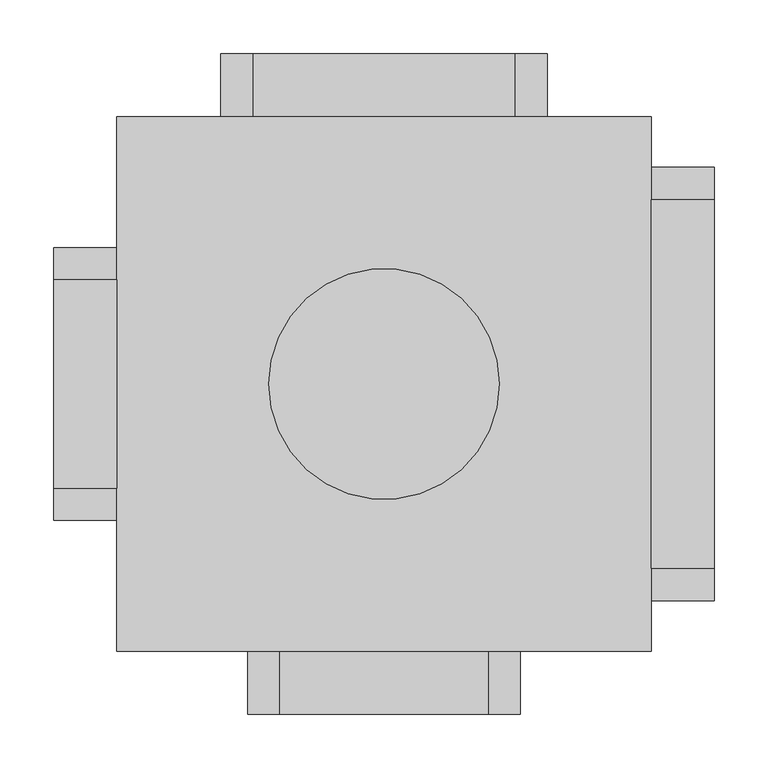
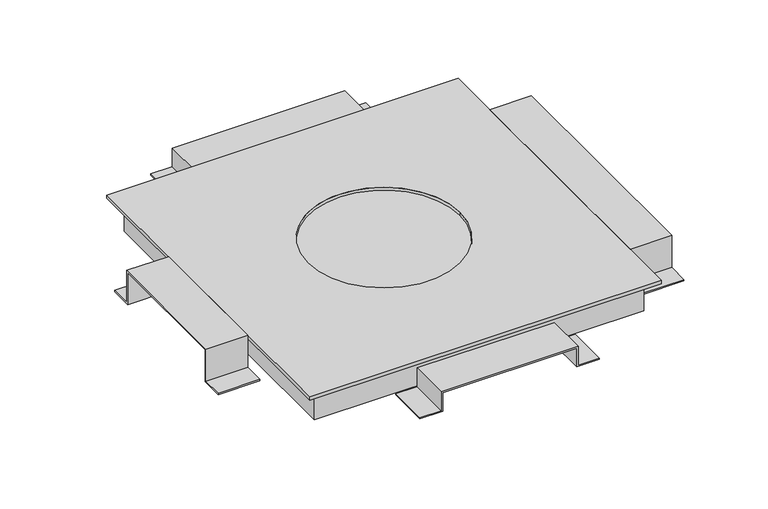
"""IFC4 building model written with IfcOpenShell, lengths in millimetres: cable carrier fitting geometry, Electrical-Installations_Hager_Universal-Junction-Box-With-Retaining-Tabs-Size-3 : Universal junction box with retaining tabs size 3."""

from ifc_helpers import new_model, si_unit, frame, origin, place, context, project, spatial, polyline, circle_curve, outline, extrude, faceted_brep, source, transform, mapped, element, save
from ifc_brep_helpers import plane_surface, revolved_surface, advanced_brep


def cable_carrier_fitting_b13fa1fb(model_context):
    return source(origin(), model_context, "Body", "SolidModel", [
        extrude(outline(polyline([(-14.0, -152.0), (-14.0, -120.0), (14.0, -120.0), (14.0, 120.0), (-14.0, 120.0), (-14.0, 152.0), (-12.0, 152.0), (-12.0, 122.0), (16.0, 122.0), (16.0, -122.0), (-12.0, -122.0), (-12.0, -152.0), (-14.0, -152.0)])), frame((0.0, 249.0, 0.0), z_axis=(0.0, 1.0, 0.0), x_axis=(0.0, 0.0, 1.0)), (0.0, 0.0, 1.0), 59.0),
        extrude(outline(polyline([(-127.0, -24.0), (-127.0, -22.0), (-97.0, -22.0), (-97.0, 26.0), (97.0, 26.0), (97.0, -22.0), (127.0, -22.0), (127.0, -24.0), (95.0, -24.0), (95.0, 24.0), (-95.0, 24.0), (-95.0, -24.0), (-127.0, -24.0)])), frame((-308.0, 0.0, 0.0), z_axis=(1.0, 0.0, 0.0), x_axis=(0.0, 1.0, 0.0)), (0.0, 0.0, 1.0), 59.0),
        extrude(outline(polyline([(-14.0, -127.0), (-14.0, -95.0), (14.0, -95.0), (14.0, 95.0), (-14.0, 95.0), (-14.0, 127.0), (-12.0, 127.0), (-12.0, 97.0), (16.0, 97.0), (16.0, -97.0), (-12.0, -97.0), (-12.0, -127.0), (-14.0, -127.0)])), frame((0.0, -308.0, 0.0), z_axis=(0.0, 1.0, 0.0), x_axis=(0.0, 0.0, 1.0)), (0.0, 0.0, 1.0), 59.0),
        extrude(outline(polyline([(-202.0, -24.0), (-202.0, -22.0), (-172.0, -22.0), (-172.0, 26.0), (172.0, 26.0), (172.0, -22.0), (202.0, -22.0), (202.0, -24.0), (170.0, -24.0), (170.0, 24.0), (-170.0, 24.0), (-170.0, -24.0), (-202.0, -24.0)])), frame((249.0, 0.0, 0.0), z_axis=(1.0, 0.0, 0.0), x_axis=(0.0, 1.0, 0.0)), (0.0, 0.0, 1.0), 59.0),
        advanced_brep(
        [(-249.0, -249.0, 26.0), (249.0, -249.0, 26.0), (249.0, 249.0, 26.0), (-249.0, 249.0, 26.0), (-107.5, 0.0, 26.0), (107.5, 0.0, 26.0), (-249.0, -249.0, 21.0), (-249.0, 249.0, 21.0), (249.0, 249.0, 21.0), (249.0, -249.0, 21.0), (227.0, 227.0, 21.0), (-227.0, 227.0, 21.0), (-227.0, -227.0, 21.0), (227.0, -227.0, 21.0), (-107.5, 0.0, 21.7820613), (107.5, 0.0, 21.7820613), (227.0, 227.0, 21.7820613), (227.0, -227.0, 21.7820613), (-227.0, -227.0, 21.7820613), (-227.0, 227.0, 21.7820613)],
        [
            (0, 1),
            (1, 2),
            (2, 3),
            (3, 0),
            (4, 5, circle_curve(frame((0.0, 0.0, 26.0), z_axis=(0.0, 0.0, -1.0), x_axis=(1.0, 0.0, 0.0)), 107.5)),
            (5, 4, circle_curve(frame((0.0, 0.0, 26.0), z_axis=(0.0, 0.0, -1.0), x_axis=(1.0, 0.0, 0.0)), 107.5)),
            (6, 7),
            (7, 8),
            (8, 9),
            (9, 6),
            (10, 11),
            (11, 12),
            (12, 13),
            (13, 10),
            (0, 6),
            (9, 1),
            (8, 2),
            (7, 3),
            (4, 14),
            (14, 15, circle_curve(frame((0.0, 0.0, 21.7820613), z_axis=(0.0, 0.0, -1.0), x_axis=(1.0, 0.0, 0.0)), 107.5)),
            (15, 5),
            (15, 14, circle_curve(frame((0.0, 0.0, 21.7820613), z_axis=(0.0, 0.0, -1.0), x_axis=(1.0, 0.0, 0.0)), 107.5)),
            (16, 17),
            (17, 18),
            (18, 19),
            (19, 16),
            (19, 11),
            (10, 16),
            (18, 12),
            (17, 13),
        ],
        [
            plane_surface(frame((-249.0, -249.0, 26.0), z_axis=(0.0, 0.0, 1.0), x_axis=(1.0, 0.0, 0.0))),
            plane_surface(frame((-249.0, -249.0, 21.0), z_axis=(0.0, 0.0, -1.0), x_axis=(-1.0, 0.0, 0.0))),
            plane_surface(frame((-249.0, -249.0, 26.0), z_axis=(0.0, -1.0, 0.0), x_axis=(0.0, 0.0, -1.0))),
            plane_surface(frame((249.0, -249.0, 26.0), z_axis=(1.0, 0.0, 0.0), x_axis=(0.0, 0.0, -1.0))),
            plane_surface(frame((249.0, 249.0, 26.0), z_axis=(0.0, 1.0, 0.0), x_axis=(0.0, 0.0, -1.0))),
            plane_surface(frame((-249.0, 249.0, 26.0), z_axis=(-1.0, 0.0, 0.0), x_axis=(0.0, 0.0, -1.0))),
            revolved_surface(polyline([(107.5, 0.0, 21.7820613), (107.5, 0.0, 26.0)]), (0.0, 0.0, 0.0), (0.0, 0.0, -1.0)),
            plane_surface(frame((-227.0, 227.0, 21.7820613), z_axis=(0.0, 0.0, -1.0), x_axis=(-1.0, 0.0, 0.0))),
            plane_surface(frame((227.0, 227.0, 21.7820613), z_axis=(0.0, -1.0, 0.0), x_axis=(0.0, 0.0, -1.0))),
            plane_surface(frame((-227.0, 227.0, 21.7820613), z_axis=(1.0, 0.0, 0.0), x_axis=(0.0, 0.0, -1.0))),
            plane_surface(frame((-227.0, -227.0, 21.7820613), z_axis=(0.0, 1.0, 0.0), x_axis=(0.0, 0.0, -1.0))),
            plane_surface(frame((227.0, -227.0, 21.7820613), z_axis=(-1.0, 0.0, 0.0), x_axis=(0.0, 0.0, -1.0))),
        ],
        [
            (0, [[1, 2, 3, 4], [5, 6]]),
            (1, [[7, 8, 9, 10], [11, 12, 13, 14]]),
            (2, [[-1, 15, -10, 16]]),
            (3, [[-2, -16, -9, 17]]),
            (4, [[-3, -17, -8, 18]]),
            (5, [[-4, -18, -7, -15]]),
            (6, [[-5, 19, 20, 21]]),
            (6, [[-6, -21, 22, -19]]),
            (7, [[23, 24, 25, 26], [-20, -22]]),
            (8, [[-26, 27, -11, 28]]),
            (9, [[-25, 29, -12, -27]]),
            (10, [[-24, 30, -13, -29]]),
            (11, [[-23, -28, -14, -30]]),
        ],
    ),
        faceted_brep([(-233.0, 233.0, 21.0), (-233.0, -233.0, 21.0), (233.0, -233.0, 21.0), (233.0, 233.0, 21.0), (-227.0, 227.0, 21.0), (227.0, 227.0, 21.0), (227.0, -227.0, 21.0), (-227.0, -227.0, 21.0), (-233.0, 233.0, -24.0), (233.0, 233.0, -24.0), (233.0, -233.0, -24.0), (-233.0, -233.0, -24.0), (227.0, 227.0, -16.1362798), (-227.0, 227.0, -16.1362798), (-227.0, -227.0, -16.1362798), (227.0, -227.0, -16.1362798)], [[[0, 1, 2, 3], [4, 5, 6, 7]], [[8, 9, 10, 11]], [[1, 0, 8, 11]], [[2, 1, 11, 10]], [[3, 2, 10, 9]], [[0, 3, 9, 8]], [[12, 13, 14, 15]], [[13, 12, 5, 4]], [[14, 13, 4, 7]], [[15, 14, 7, 6]], [[12, 15, 6, 5]]]),
    ])


if __name__ == "__main__":
    model = new_model("IFC4")
    model_context = context("Model", 3, world=origin())
    ifc_project = project(units=[si_unit("LENGTHUNIT", "METRE", prefix="MILLI")], contexts=[model_context])
    site = spatial("IfcSite", under=ifc_project)
    building = spatial("IfcBuilding", under=site)
    placement = place(None, origin())
    cable_carrier_fitting_shape = cable_carrier_fitting_b13fa1fb(model_context)
    element("IfcCableCarrierFitting", 1, ObjectType="Electrical-Installations_Hager_Universal-Junction-Box-With-Retaining-Tabs-Size-3 : Universal junction box with retaining tabs size 3", at=placement, inside=building, context=model_context, shape_type="MappedRepresentation", body=[
        mapped(cable_carrier_fitting_shape, transform((0.0, 0.0, 0.0), x_axis=(1.0, 0.0, 0.0), y_axis=(0.0, 1.0, 0.0), z_axis=(0.0, 0.0, 1.0))),
    ])
    save(model, "model.ifc")
